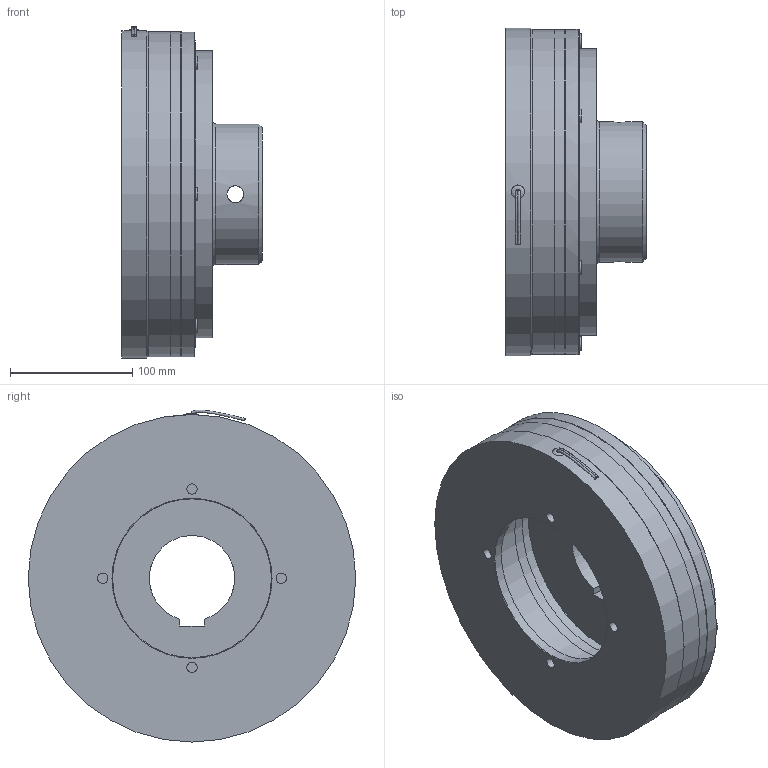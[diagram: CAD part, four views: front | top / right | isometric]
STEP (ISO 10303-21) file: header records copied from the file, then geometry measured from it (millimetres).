
FILE_DESCRIPTION(/* description */ (''),/* implementation_level */ '2;1');
FILE_NAME(/* name */ 'X:\INVENTOR\DISEGNI\08_Freni_Friz_Elettmag_Monodisco\08_28 EMFL_DF\08_28_000_12 EMFL_DF-C-ME\08_28_260_12 EMFL260_DF-C-ME\08_28_260_12 EMFL260_DF-C-ME@STEP.stp',/* time_stamp */ '2018-04-23T10:57:02+02:00',/* author */ ('stefano'),/* organization */ (''),/* preprocessor_version */ 'ST-DEVELOPER v17',/* originating_system */ 'Autodesk Inventor 2018',/* authorisation */ '');
FILE_SCHEMA (('AUTOMOTIVE_DESIGN { 1 0 10303 214 3 1 1 }'));
Length unit declared in the file: millimetre
Products named in the file (1): 08_28_260_12 EMFL260_DF-C-ME_Substitute_1
Bounding box: 115 x 268 x 271.71 mm (x, y, z)
Volume: 2835775.5 mm3; surface area: 394869.8 mm2
Topology: 2 solids, 2 shells, 454 faces, 1375 edges, 908 vertices
Faces by surface type: cylinder 261, plane 132, cone 51, torus 7, bspline 3
Full cylindrical faces by diameter (mm): 4 x1, 6.647 x6, 7 x12, 7.1 x24, 8.5 x4, 9 x1, 11 x36, 12.5 x6, 13 x6, 13.835 x2, 115 x1, 130 x1, 162 x2, 170 x1, 194 x1, 235 x1, 243 x1, 266 x3, 268 x1
Entity records: 17138 total; most frequent: CARTESIAN_POINT 3511, DIRECTION 3075, ORIENTED_EDGE 2716, EDGE_CURVE 1358, AXIS2_PLACEMENT_3D 1341, VERTEX_POINT 909, CIRCLE 889, EDGE_LOOP 564
